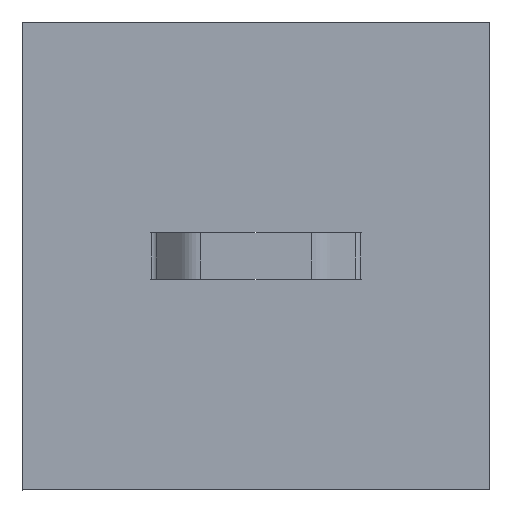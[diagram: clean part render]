
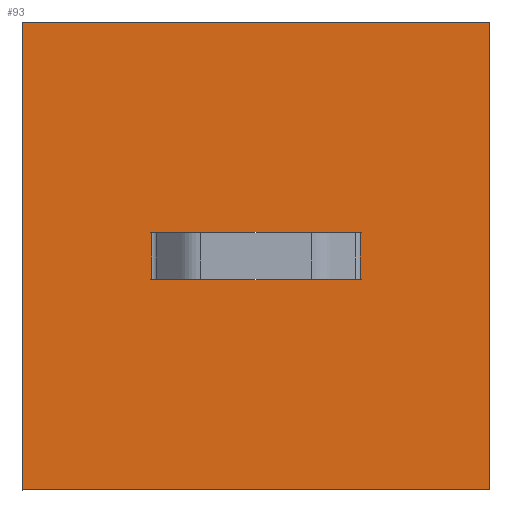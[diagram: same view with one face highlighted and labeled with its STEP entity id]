
A CAD part, top view. The second image highlights one B-rep face of the part: STEP entity #93.
In plain terms, the highlighted planar face has unit normal (0, 0, 1).
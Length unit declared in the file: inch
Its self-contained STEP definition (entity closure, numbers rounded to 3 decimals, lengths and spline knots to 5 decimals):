
#93=ADVANCED_FACE('',(#141,#142),#143,.T.);
#141=FACE_BOUND('',#199,.T.);
#142=FACE_OUTER_BOUND('',#200,.T.);
#143=PLANE('',#201);
#199=EDGE_LOOP('',(#390,#391,#392,#393,#394,#395,#396,#397,#398,#399,#400,#401));
#200=EDGE_LOOP('',(#402,#403,#404,#405));
#201=AXIS2_PLACEMENT_3D('',#406,#407,#408);
#390=ORIENTED_EDGE('',*,*,#530,.T.);
#391=ORIENTED_EDGE('',*,*,#490,.F.);
#392=ORIENTED_EDGE('',*,*,#484,.F.);
#393=ORIENTED_EDGE('',*,*,#481,.F.);
#394=ORIENTED_EDGE('',*,*,#524,.T.);
#395=ORIENTED_EDGE('',*,*,#543,.F.);
#396=ORIENTED_EDGE('',*,*,#506,.T.);
#397=ORIENTED_EDGE('',*,*,#472,.T.);
#398=ORIENTED_EDGE('',*,*,#476,.T.);
#399=ORIENTED_EDGE('',*,*,#488,.F.);
#400=ORIENTED_EDGE('',*,*,#514,.T.);
#401=ORIENTED_EDGE('',*,*,#542,.F.);
#402=ORIENTED_EDGE('',*,*,#545,.T.);
#403=ORIENTED_EDGE('',*,*,#546,.T.);
#404=ORIENTED_EDGE('',*,*,#547,.T.);
#405=ORIENTED_EDGE('',*,*,#548,.T.);
#406=CARTESIAN_POINT('',(0.0,0.0,0.0));
#407=DIRECTION('',(0.0,0.0,1.0));
#408=DIRECTION('',(1.0,-0.0,0.0));
#472=EDGE_CURVE('',#556,#557,#558,.F.);
#476=EDGE_CURVE('',#557,#564,#565,.T.);
#481=EDGE_CURVE('',#572,#574,#575,.T.);
#484=EDGE_CURVE('',#574,#579,#580,.T.);
#488=EDGE_CURVE('',#584,#564,#586,.T.);
#490=EDGE_CURVE('',#579,#589,#590,.T.);
#506=EDGE_CURVE('',#617,#556,#618,.F.);
#514=EDGE_CURVE('',#584,#631,#633,.F.);
#524=EDGE_CURVE('',#572,#649,#651,.F.);
#530=EDGE_CURVE('',#661,#589,#662,.F.);
#542=EDGE_CURVE('',#661,#631,#678,.T.);
#543=EDGE_CURVE('',#617,#649,#679,.T.);
#545=EDGE_CURVE('',#681,#682,#683,.T.);
#546=EDGE_CURVE('',#682,#684,#685,.T.);
#547=EDGE_CURVE('',#684,#686,#687,.T.);
#548=EDGE_CURVE('',#686,#681,#688,.T.);
#556=VERTEX_POINT('',#696);
#557=VERTEX_POINT('',#697);
#558=LINE('',#698,#699);
#564=VERTEX_POINT('',#708);
#565=LINE('',#709,#710);
#572=VERTEX_POINT('',#720);
#574=VERTEX_POINT('',#723);
#575=LINE('',#724,#725);
#579=VERTEX_POINT('',#731);
#580=LINE('',#732,#733);
#584=VERTEX_POINT('',#739);
#586=LINE('',#742,#743);
#589=VERTEX_POINT('',#747);
#590=LINE('',#748,#749);
#617=VERTEX_POINT('',#788);
#618=LINE('',#789,#790);
#631=VERTEX_POINT('',#806);
#633=LINE('',#808,#809);
#649=VERTEX_POINT('',#830);
#651=LINE('',#832,#833);
#661=VERTEX_POINT('',#846);
#662=LINE('',#847,#848);
#678=LINE('',#872,#873);
#679=LINE('',#874,#875);
#681=VERTEX_POINT('',#878);
#682=VERTEX_POINT('',#879);
#683=LINE('',#880,#881);
#684=VERTEX_POINT('',#882);
#685=LINE('',#883,#884);
#686=VERTEX_POINT('',#885);
#687=LINE('',#886,#887);
#688=LINE('',#888,#889);
#696=CARTESIAN_POINT('',(4.43322,4.4,0.0));
#697=CARTESIAN_POINT('',(4.43322,4.401,0.));
#698=CARTESIAN_POINT('',(4.43322,2.2,0.));
#699=VECTOR('',#904,1.0);
#708=CARTESIAN_POINT('',(5.33478,4.401,0.0));
#709=CARTESIAN_POINT('',(2.442,4.401,0.0));
#710=VECTOR('',#908,1.0);
#720=CARTESIAN_POINT('',(4.43322,4.2,0.0));
#723=CARTESIAN_POINT('',(4.43322,4.199,0.0));
#724=CARTESIAN_POINT('',(4.43322,2.1,0.));
#725=VECTOR('',#913,1.0);
#731=CARTESIAN_POINT('',(5.33478,4.199,0.0));
#732=CARTESIAN_POINT('',(2.442,4.199,0.0));
#733=VECTOR('',#916,1.0);
#739=CARTESIAN_POINT('',(5.33478,4.4,0.0));
#742=CARTESIAN_POINT('',(5.33478,2.2,0.0));
#743=VECTOR('',#920,1.0);
#747=CARTESIAN_POINT('',(5.33478,4.2,0.0));
#748=CARTESIAN_POINT('',(5.33478,2.1,0.0));
#749=VECTOR('',#922,1.0);
#788=CARTESIAN_POINT('',(4.43802,4.4,0.0));
#789=CARTESIAN_POINT('',(2.27122,4.4,0.0));
#790=VECTOR('',#944,1.0);
#806=CARTESIAN_POINT('',(5.32998,4.4,0.0));
#808=CARTESIAN_POINT('',(2.27122,4.4,0.0));
#809=VECTOR('',#960,1.0);
#830=CARTESIAN_POINT('',(4.43802,4.2,0.0));
#832=CARTESIAN_POINT('',(2.27122,4.2,0.0));
#833=VECTOR('',#978,1.0);
#846=CARTESIAN_POINT('',(5.32998,4.2,0.0));
#847=CARTESIAN_POINT('',(2.27122,4.2,0.0));
#848=VECTOR('',#988,1.0);
#872=CARTESIAN_POINT('',(5.32998,2.1,0.0));
#873=VECTOR('',#1006,0.2);
#874=CARTESIAN_POINT('',(4.43802,2.1,0.0));
#875=VECTOR('',#1007,0.2);
#878=CARTESIAN_POINT('',(5.884,3.3,0.0));
#879=CARTESIAN_POINT('',(5.884,5.3,0.0));
#880=CARTESIAN_POINT('',(5.884,11527.17073,0.0));
#881=VECTOR('',#1009,1.0);
#882=CARTESIAN_POINT('',(3.884,5.3,0.0));
#883=CARTESIAN_POINT('',(64911.97245,5.3,0.0));
#884=VECTOR('',#1010,1.0);
#885=CARTESIAN_POINT('',(3.884,3.3,0.0));
#886=CARTESIAN_POINT('',(3.884,30824.05949,0.0));
#887=VECTOR('',#1011,1.0);
#888=CARTESIAN_POINT('',(30108.45028,3.3,0.0));
#889=VECTOR('',#1012,1.0);
#904=DIRECTION('',(0.0,-1.0,0.0));
#908=DIRECTION('',(1.0,0.0,0.0));
#913=DIRECTION('',(0.0,-1.0,0.0));
#916=DIRECTION('',(1.0,0.0,0.0));
#920=DIRECTION('',(0.0,1.0,0.0));
#922=DIRECTION('',(0.0,1.0,0.0));
#944=DIRECTION('',(1.0,0.0,-0.0));
#960=DIRECTION('',(1.0,0.0,-0.0));
#978=DIRECTION('',(-1.0,0.0,0.0));
#988=DIRECTION('',(-1.0,0.0,0.0));
#1006=DIRECTION('',(-0.0,1.0,-0.0));
#1007=DIRECTION('',(0.0,-1.0,0.0));
#1009=DIRECTION('',(0.0,1.0,0.0));
#1010=DIRECTION('',(-1.0,0.0,0.0));
#1011=DIRECTION('',(0.0,-1.0,0.0));
#1012=DIRECTION('',(1.0,0.0,-0.0));
